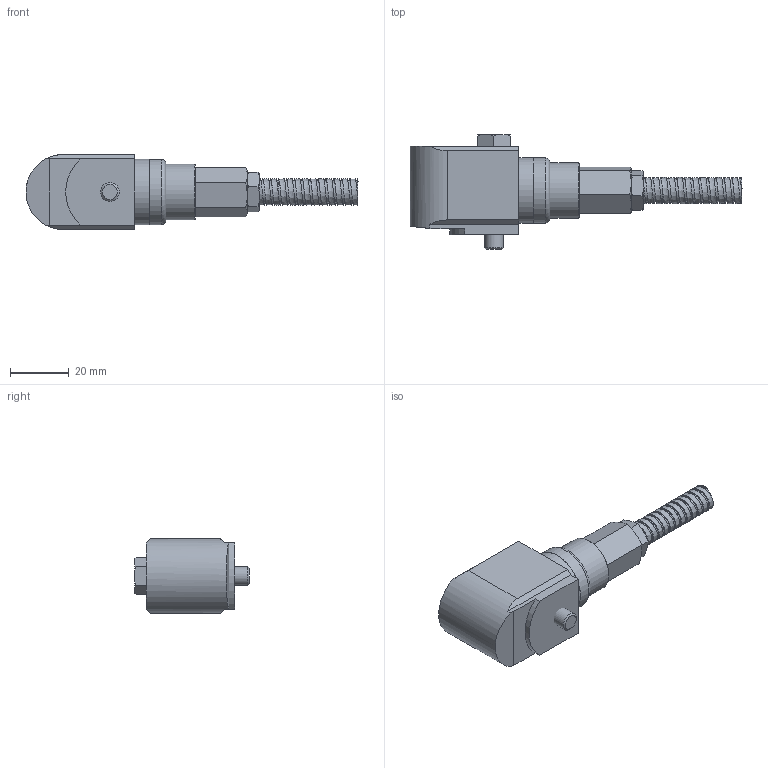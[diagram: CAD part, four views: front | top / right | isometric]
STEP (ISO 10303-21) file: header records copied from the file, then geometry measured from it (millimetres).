
FILE_DESCRIPTION(/* description */ (''),/* implementation_level */ '2;1');
FILE_NAME(/* name */ 'Z:\Engineering\Drawings\3D Library\Assemblies\Website\Premium Side\HS-150 Side Silicon Conduit\HS-150SXXX29C02.stp',/* time_stamp */ '2023-03-12T17:24:06+00:00',/* author */ ('Ricardo.Peneda'),/* organization */ (''),/* preprocessor_version */ 'ST-DEVELOPER v18.1',/* originating_system */ 'Autodesk Inventor 2021',/* authorisation */ '');
FILE_SCHEMA (('AUTOMOTIVE_DESIGN { 1 0 10303 214 3 1 1 }'));
Length unit declared in the file: inch
Products named in the file (1): HS-150SXXX29C02_Shrinkwrap_1
Bounding box: 112.79 x 39 x 25.5 mm (x, y, z)
Volume: 29664.3 mm3; surface area: 17573.4 mm2
Topology: 7 solids, 7 shells, 134 faces, 343 edges, 245 vertices
Faces by surface type: plane 66, cylinder 30, cone 28, bspline 8, torus 2
Full cylindrical faces by diameter (mm): 4.5 x1, 5.359 x1, 6.35 x1, 6.5 x1, 7.9 x2, 8.6 x1, 9 x1, 10 x1, 10.2 x1, 11.959 x1, 12 x3, 13 x1, 14 x2, 14.95 x1, 15 x2, 15.34 x1, 15.35 x1, 18 x1, 19 x1, 19.95 x1, 20 x1, 22.2 x2
Entity records: 18341 total; most frequent: CARTESIAN_POINT 14846, DIRECTION 694, ORIENTED_EDGE 686, EDGE_CURVE 343, AXIS2_PLACEMENT_3D 283, VERTEX_POINT 245, EDGE_LOOP 162, CIRCLE 151
